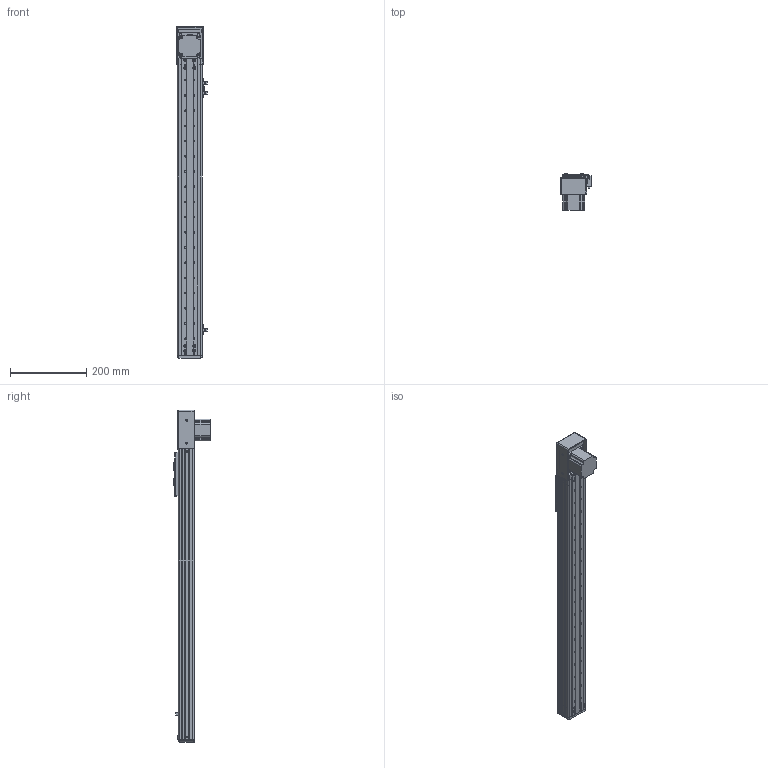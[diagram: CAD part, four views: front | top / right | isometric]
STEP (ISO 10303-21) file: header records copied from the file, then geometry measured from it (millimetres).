
FILE_DESCRIPTION (( 'STEP AP203' ), '1' );
FILE_NAME ('RY60F-T-350-DK.SLDASM_600.step', '2021-03-02T00:55:58', ( '盈信电脑' ), ( '东莞市道滘镇水果街19号' ), 'SwSTEP 2.0', 'SolidWorks 2012', '' );
FILE_SCHEMA (( 'CONFIG_CONTROL_DESIGN' ));
Length unit declared in the file: millimetre
Products named in the file (19): RY60F-T-350-DK.SLDASM_600; 57祭輛萇儂; RY60F-肮祭湍揤輸2; RY60F-T-狟殏欶; RY60F-T-57萇儂奻殏假蚾啣; RY60F-肮祭湍揤輸; RY60F-T-下折同步带拉紧板; 覜茼ん672; RY50F-350-MR15W絳寢-DK_600; RY60F-350-肮祭湍滅鳥詩え-DK_600; 滅袉蝶18-24; RY60F-祥凄詩滅鳥裔; RY60F-350肮祭湍俋褲-DK_600; RY50-60詩湍揤啣; RY60F-T-下折57电机端同步轮座; RY60F-浮动端同步轮支撑座; RY60F-嫖萇羲壽結え; RY60F-滅鳥詩え盓殤; RY60F-肮祭湍臏賑輸
Assembly tree (23 placements, depth 2):
  RY60F-T-350-DK.SLDASM_600
    RY60F-肮祭湍臏賑輸
    RY60F-浮动端同步轮支撑座
    RY60F-滅鳥詩え盓殤
    RY60F-嫖萇羲壽結え
    RY50-60詩湍揤啣  x2
    RY60F-祥凄詩滅鳥裔
    RY60F-T-下折57电机端同步轮座
    RY60F-350肮祭湍俋褲-DK_600  x2
    覜茼ん672  x3
    RY60F-350-肮祭湍滅鳥詩え-DK_600
    RY50F-350-MR15W絳寢-DK_600
    滅袉蝶18-24  x2
    RY60F-T-57萇儂奻殏假蚾啣
    RY60F-T-下折同步带拉紧板
    RY60F-肮祭湍揤輸
    RY60F-肮祭湍揤輸2
    57祭輛萇儂
    RY60F-T-狟殏欶
Bounding box: 80.76 x 96.5 x 873 mm (x, y, z)
Volume: 899648.3 mm3; surface area: 571187.5 mm2
Topology: 23 solids, 23 shells, 1178 faces, 3230 edges, 2076 vertices
Faces by surface type: cylinder 551, plane 546, cone 71, bspline 10
Entity records: 36277 total; most frequent: CARTESIAN_POINT 6577, DIRECTION 5860, ORIENTED_EDGE 5636, EDGE_CURVE 2818, AXIS2_PLACEMENT_3D 2067, VERTEX_POINT 1844, LINE 1726, VECTOR 1726
